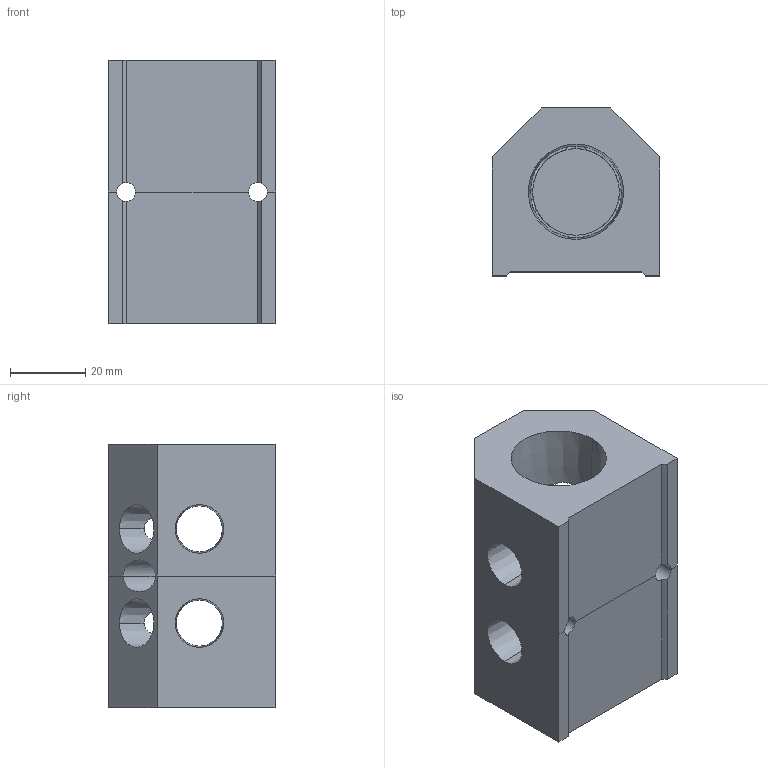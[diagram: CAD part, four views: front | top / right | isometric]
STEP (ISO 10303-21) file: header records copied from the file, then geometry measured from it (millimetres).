
FILE_DESCRIPTION (( 'STEP AP214' ), '1' );
FILE_NAME ('ALM2ABCDE-N4N12-70RB.step', '2022-02-06T14:18:29', ( '' ), ( '' ), 'SwSTEP 2.0', 'SolidWorks 2020', '' );
FILE_SCHEMA (( 'AUTOMOTIVE_DESIGN' ));
Length unit declared in the file: millimetre
Products named in the file (1): ALM2ABCDE-N4N12-70RB
Bounding box: 44.5 x 44.5 x 70 mm (x, y, z)
Volume: 78196.4 mm3; surface area: 25710.1 mm2
Topology: 2 solids, 2 shells, 397 faces, 1093 edges, 728 vertices
Faces by surface type: plane 265, bspline 64, cone 34, cylinder 34
Entity records: 21256 total; most frequent: CARTESIAN_POINT 8043, ORIENTED_EDGE 2186, DIRECTION 1579, EDGE_CURVE 1093, VECTOR 735, LINE 735, VERTEX_POINT 728, EDGE_LOOP 445
